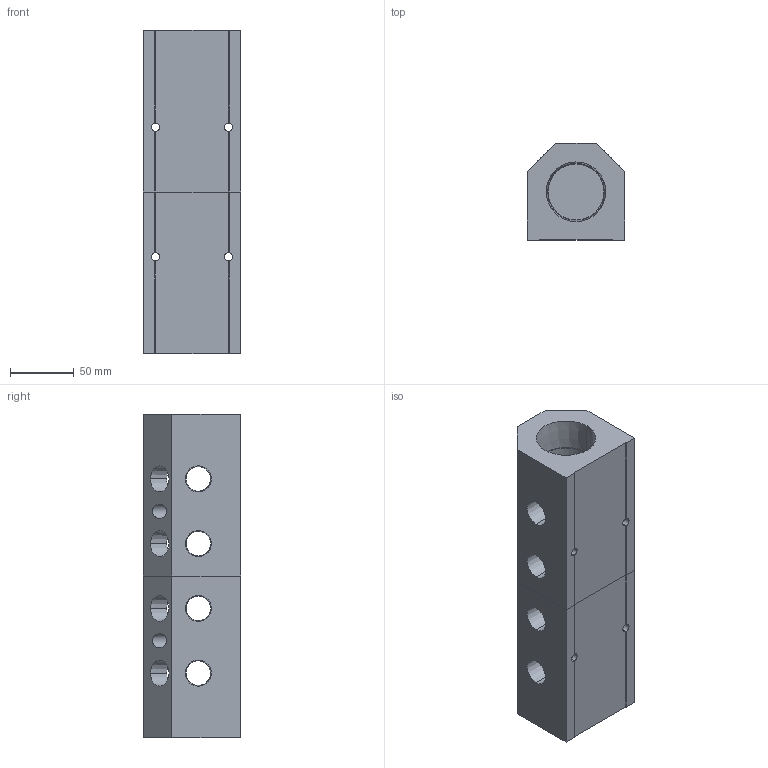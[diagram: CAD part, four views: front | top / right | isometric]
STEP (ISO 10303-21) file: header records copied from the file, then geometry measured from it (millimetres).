
FILE_DESCRIPTION (( 'STEP AP214' ), '1' );
FILE_NAME ('ALM4ABCDE-N8N24-254RB.step', '2022-02-07T09:39:31', ( '' ), ( '' ), 'SwSTEP 2.0', 'SolidWorks 2020', '' );
FILE_SCHEMA (( 'AUTOMOTIVE_DESIGN' ));
Length unit declared in the file: millimetre
Products named in the file (1): ALM4ABCDE-N8N24-254RB
Bounding box: 76.2 x 76.2 x 254 mm (x, y, z)
Volume: 835965.7 mm3; surface area: 141658.8 mm2
Topology: 2 solids, 2 shells, 408 faces, 1141 edges, 758 vertices
Faces by surface type: plane 271, bspline 69, cone 44, cylinder 24
Entity records: 23147 total; most frequent: CARTESIAN_POINT 9337, ORIENTED_EDGE 2282, DIRECTION 1643, EDGE_CURVE 1141, VECTOR 803, LINE 803, VERTEX_POINT 758, EDGE_LOOP 477
